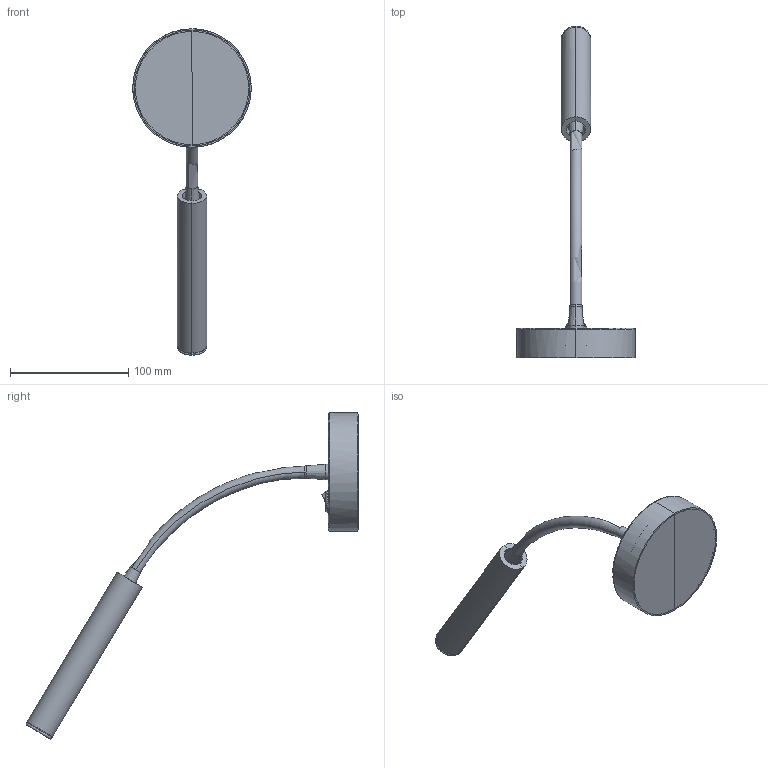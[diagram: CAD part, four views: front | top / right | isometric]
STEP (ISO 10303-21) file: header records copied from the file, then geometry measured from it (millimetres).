
FILE_DESCRIPTION(/* description */ (''),/* implementation_level */ '2;1');
FILE_NAME(/* name */ 'C:\Users\Franco Sartori E\Documents\FARO\Modelos\01_Indoor\P_Ana\1_KALE\03_Publicación\62703_KALE_SURFACE_3D.stp',/* time_stamp */ '2020-05-07T10:43:06+02:00',/* author */ ('Franco Sartori E'),/* organization */ (''),/* preprocessor_version */ 'ST-DEVELOPER v18',/* originating_system */ 'AutoCAD Mechanical',/* authorisation */ '');
FILE_SCHEMA (('AUTOMOTIVE_DESIGN { 1 0 10303 214 3 1 1 }'));
Length unit declared in the file: millimetre
Products named in the file (2): Product; 62703_KALE - KALE-374655-_3D_ Copy 1
Assembly tree (1 placements, depth 2):
  Product
    62703_KALE - KALE-374655-_3D_ Copy 1
Bounding box: 100.03 x 280.45 x 275.69 mm (x, y, z)
Volume: 109840.7 mm3; surface area: 79236.6 mm2
Topology: 9 solids, 9 shells, 97 faces, 176 edges, 93 vertices
Faces by surface type: plane 46, cylinder 35, torus 8, cone 6, bspline 2
Entity records: 2584 total; most frequent: CARTESIAN_POINT 667, DIRECTION 423, ORIENTED_EDGE 352, EDGE_CURVE 176, AXIS2_PLACEMENT_3D 175, FACE_OUTER_BOUND 97, EDGE_LOOP 97, ADVANCED_FACE 97
